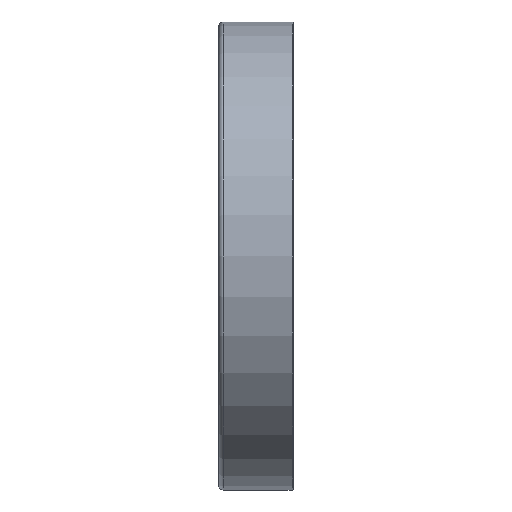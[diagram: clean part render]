
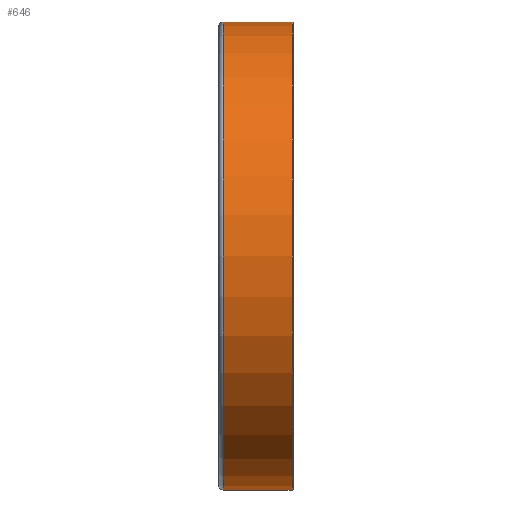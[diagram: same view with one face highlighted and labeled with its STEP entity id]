
A CAD part, front view. The second image highlights one B-rep face of the part: STEP entity #646.
In plain terms, the highlighted cylindrical face has radius 50 mm (diameter 100 mm), a full revolution.
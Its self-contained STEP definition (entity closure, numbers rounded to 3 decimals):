
#185=CYLINDRICAL_SURFACE('',#1030,50.);
#309=EDGE_LOOP('',(#445));
#310=EDGE_LOOP('',(#446));
#445=ORIENTED_EDGE('',*,*,#521,.F.);
#446=ORIENTED_EDGE('',*,*,#519,.T.);
#519=EDGE_CURVE('',#945,#945,#539,.T.);
#521=EDGE_CURVE('',#947,#947,#541,.T.);
#539=CIRCLE('',#1026,50.);
#541=CIRCLE('',#1029,50.);
#646=ADVANCED_FACE('',(#823,#824),#185,.T.);
#823=FACE_BOUND('',#309,.T.);
#824=FACE_BOUND('',#310,.T.);
#945=VERTEX_POINT('',#4146);
#947=VERTEX_POINT('',#4151);
#1026=AXIS2_PLACEMENT_3D('',#4145,#1172,#1173);
#1029=AXIS2_PLACEMENT_3D('',#4150,#1178,#1179);
#1030=AXIS2_PLACEMENT_3D('',#4152,#1180,#1181);
#1172=DIRECTION('',(1.,0.,0.));
#1173=DIRECTION('',(0.,0.,-1.));
#1178=DIRECTION('',(1.,0.,0.));
#1179=DIRECTION('',(0.,0.,-1.));
#1180=DIRECTION('',(1.,0.,0.));
#1181=DIRECTION('',(0.,0.,-1.));
#4145=CARTESIAN_POINT('',(-7.,0.,0.));
#4146=CARTESIAN_POINT('',(-7.,0.,-50.));
#4150=CARTESIAN_POINT('',(7.7,0.,0.));
#4151=CARTESIAN_POINT('',(7.7,0.,-50.));
#4152=CARTESIAN_POINT('',(-7.,0.,0.));
